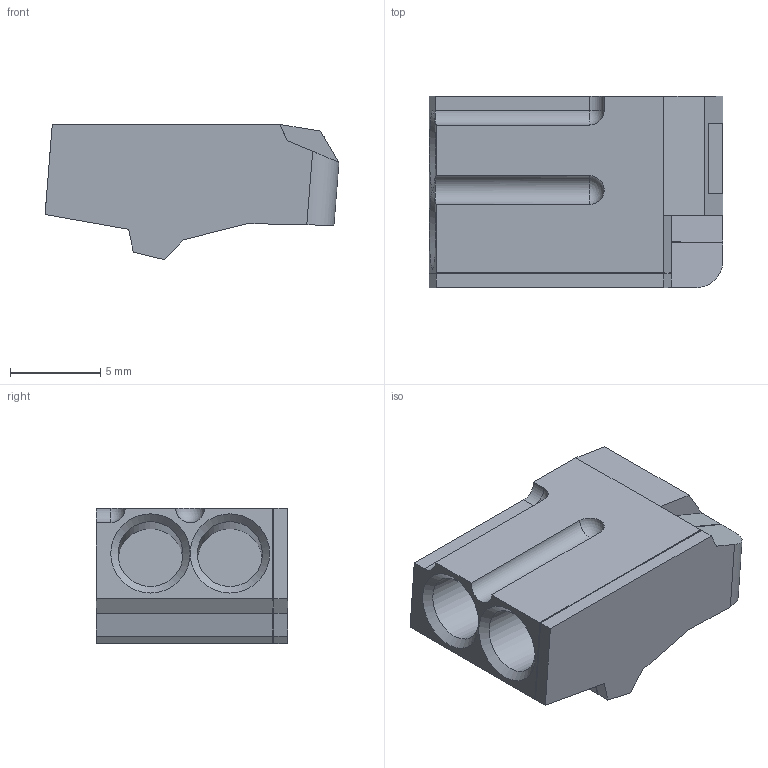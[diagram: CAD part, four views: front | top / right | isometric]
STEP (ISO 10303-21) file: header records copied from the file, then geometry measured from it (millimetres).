
FILE_DESCRIPTION(/* description */ ('Unknown'),/* implementation_level */ '2;1');
FILE_NAME(/* name */ 'ST 3502',/* time_stamp */ '2021-10-08T08:58:18+02:00',/* author */ ('Unknown'),/* organization */ ('Unknown'),/* preprocessor_version */ 'ST-DEVELOPER v16.7',/* originating_system */ 'Solid Edge',/* authorisation */ 'Unknown');
FILE_SCHEMA (('AUTOMOTIVE_DESIGN {1 0 10303 214 3 1 1}'));
Length unit declared in the file: millimetre
Products named in the file (1): ST 3502
Bounding box: 16.28 x 10.6 x 7.5 mm (x, y, z)
Volume: 820.6 mm3; surface area: 796.6 mm2
Topology: 1 solids, 1 shells, 62 faces, 154 edges, 87 vertices
Faces by surface type: plane 35, cylinder 20, sphere 5, cone 2
Full cylindrical faces by diameter (mm): 3.6 x2
Entity records: 2130 total; most frequent: DIRECTION 298, CARTESIAN_POINT 282, ORIENTED_EDGE 274, EDGE_CURVE 137, LINE 102, VECTOR 102, AXIS2_PLACEMENT_3D 98, VERTEX_POINT 82
